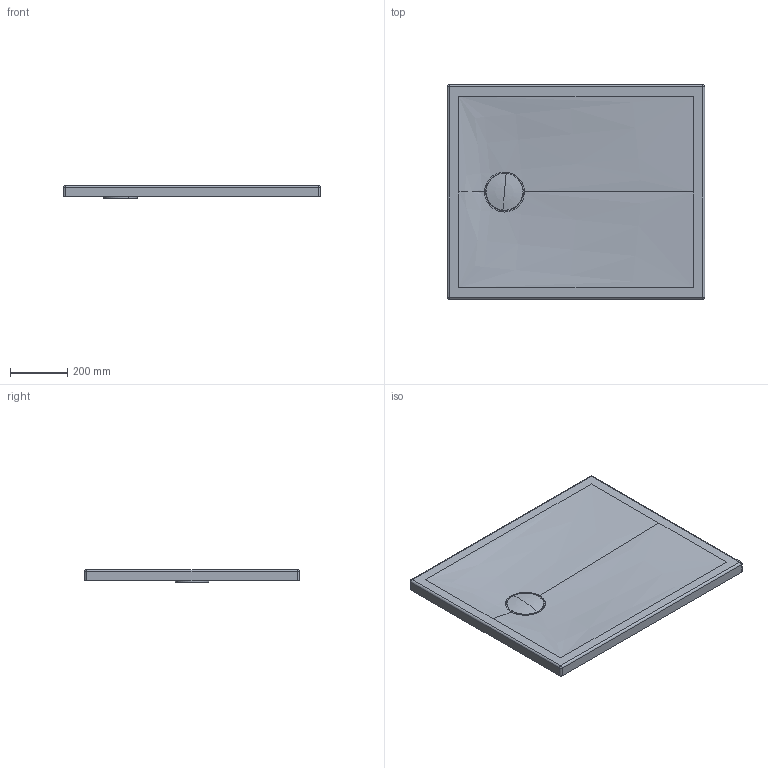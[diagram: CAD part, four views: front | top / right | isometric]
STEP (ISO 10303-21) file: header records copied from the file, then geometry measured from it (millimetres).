
FILE_DESCRIPTION(/* description */ (''),/* implementation_level */ '2;1');
FILE_NAME(/* name */ '720191',/* time_stamp */ '2019-03-04T16:29:54+01:00',/* author */ (''),/* organization */ (''),/* preprocessor_version */ 'ST-DEVELOPER v15',/* originating_system */ '',/* authorisation */ '');
FILE_SCHEMA (('AUTOMOTIVE_DESIGN'));
Length unit declared in the file: millimetre
Products named in the file (1): Document
Bounding box: 900 x 750 x 45.4 mm (x, y, z)
Volume: 85786 mm3; surface area: 851901.7 mm2
Topology: 2 solids, 3 shells, 41 faces, 96 edges, 55 vertices
Faces by surface type: bspline 41
Entity records: 5585 total; most frequent: CARTESIAN_POINT 4456, B_SPLINE_CURVE_WITH_KNOTS 204, ORIENTED_EDGE 170, PCURVE 170, DEFINITIONAL_REPRESENTATION 170, SURFACE_CURVE 90, EDGE_CURVE 90, VERTEX_POINT 55
